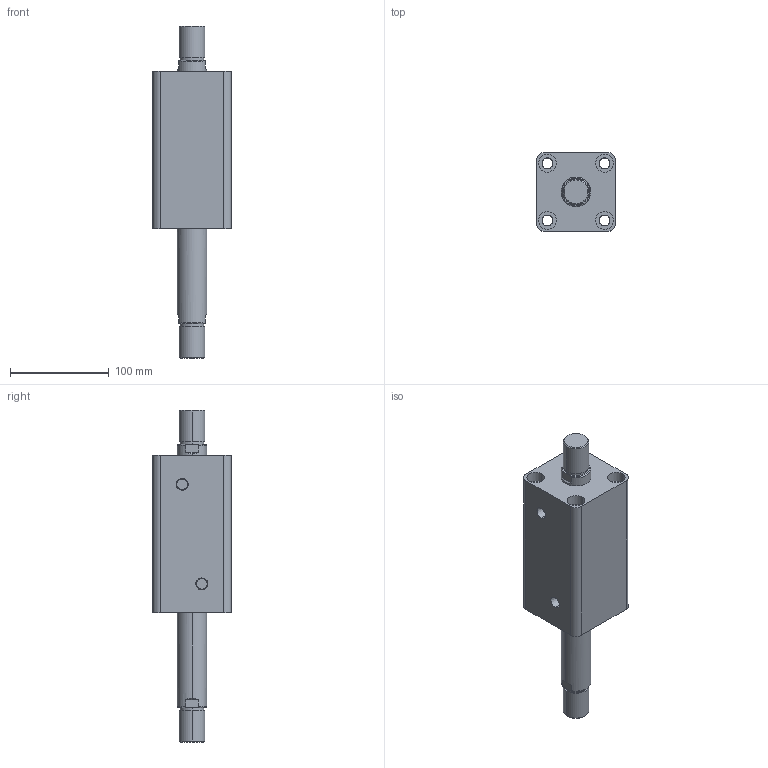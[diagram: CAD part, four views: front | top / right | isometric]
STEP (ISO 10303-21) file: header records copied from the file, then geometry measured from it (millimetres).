
FILE_DESCRIPTION (( 'STEP AP203' ), '1' );
FILE_NAME ('HTB-SW50-85W.STEP', '2019-10-07T09:24:45', ( '微软用户' ), ( '微软中国' ), 'SwSTEP 2.0', 'SolidWorks 2012', '' );
FILE_SCHEMA (( 'CONFIG_CONTROL_DESIGN' ));
Length unit declared in the file: millimetre
Products named in the file (3): HTB-SW50-85W; HTB-SW50-85W活塞杆; HTB-SW50-85掛极
Assembly tree (2 placements, depth 2):
  HTB-SW50-85W
    HTB-SW50-85掛极
    HTB-SW50-85W活塞杆
Bounding box: 80 x 80 x 337 mm (x, y, z)
Volume: 943249.4 mm3; surface area: 144703.5 mm2
Topology: 2 solids, 2 shells, 108 faces, 240 edges, 156 vertices
Faces by surface type: cylinder 52, plane 36, torus 12, cone 8
Entity records: 3449 total; most frequent: CARTESIAN_POINT 629, DIRECTION 586, ORIENTED_EDGE 480, AXIS2_PLACEMENT_3D 249, EDGE_CURVE 240, VERTEX_POINT 156, EDGE_LOOP 138, CIRCLE 136
